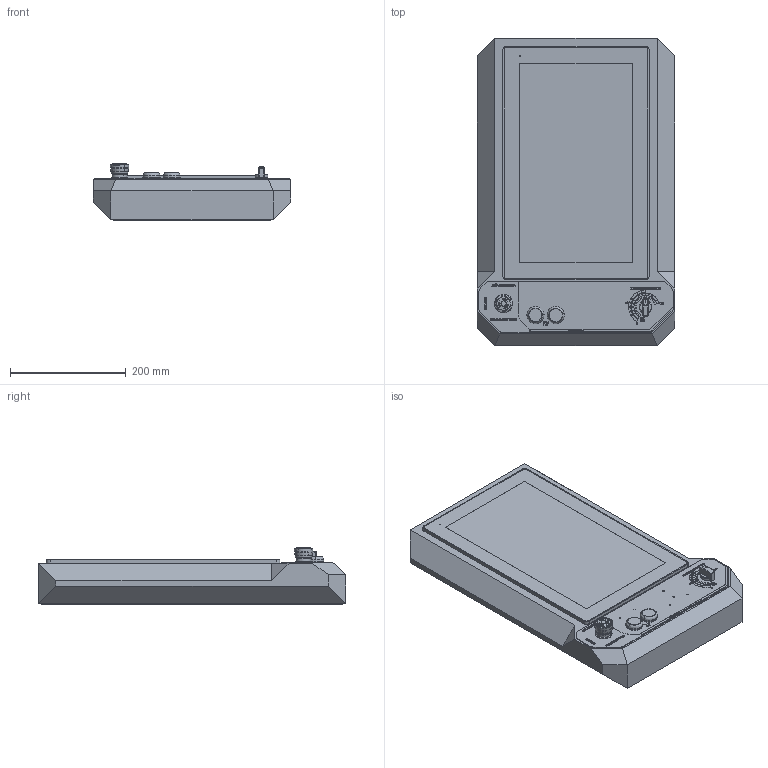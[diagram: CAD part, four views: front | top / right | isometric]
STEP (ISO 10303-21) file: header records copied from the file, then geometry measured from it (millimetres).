
FILE_DESCRIPTION (( 'STEP AP203' ), '1' );
FILE_NAME ('HSP1516.STEP', '2026-06-02T13:03:54', ( '' ), ( '' ), 'SwSTEP 2.0', 'SolidWorks 2019', '' );
FILE_SCHEMA (( 'CONFIG_CONTROL_DESIGN' ));
Length unit declared in the file: millimetre
Products named in the file (23): ROTARYswitchKAFASI; 4; HSP1516_Asm02; 22mmACILstop21; HSP1516; HSP1516SacPanel_Part01; 3; 8; EatonM22-DLButonKIRMIZI; 7; EatonM22-DLButon; P3_hmi3161_sacPanel_Part03_G00-G01override; 5; P3_hmi3161_sacPanel_Part05_autoicon; 2; HST1506-J1900_PanelPCgriTema; 10; 1; 9; P3_HST1506SacPanel_Part02; HSCkontrol_logo_2022_4mm; HSP1516SacPanel_Part02; 6
Assembly tree (22 placements, depth 4):
  HSP1516
    HSP1516SacPanel_Part01
    HSP1516SacPanel_Part02
    HSP1516_Asm02
      P3_HST1506SacPanel_Part02
      22mmACILstop21
        1
        2
        3
        4
        5
        6
        7
        8
        9
        10
      EatonM22-DLButon
      EatonM22-DLButonKIRMIZI
      P3_hmi3161_sacPanel_Part03_G00-G01override
      ROTARYswitchKAFASI
      HSCkontrol_logo_2022_4mm
      P3_hmi3161_sacPanel_Part05_autoicon
    HST1506-J1900_PanelPCgriTema
Bounding box: 340 x 530 x 98.24 mm (x, y, z)
Volume: 8636313.2 mm3; surface area: 1290123.9 mm2
Topology: 90 solids, 90 shells, 2232 faces, 5783 edges, 3828 vertices
Faces by surface type: plane 1403, bspline 397, cylinder 353, cone 65, torus 14
Entity records: 86821 total; most frequent: CARTESIAN_POINT 31601, ORIENTED_EDGE 11566, DIRECTION 9506, EDGE_CURVE 5783, VECTOR 4024, LINE 4024, VERTEX_POINT 3828, AXIS2_PLACEMENT_3D 2741
